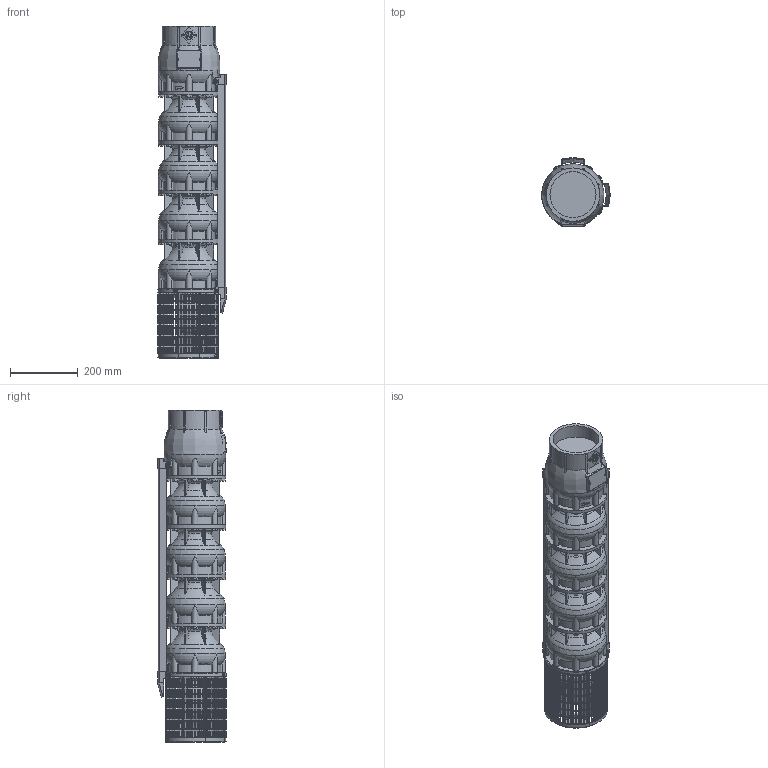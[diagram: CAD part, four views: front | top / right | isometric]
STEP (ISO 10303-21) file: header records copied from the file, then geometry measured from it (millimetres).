
FILE_DESCRIPTION(/* description */ ('Unknown'),/* implementation_level */ '2;1');
FILE_NAME(/* name */ 'VSI134-4_WR_M6-50_SLE',/* time_stamp */ '2023-09-14T15:05:43+02:00',/* author */ ('Unknown'),/* organization */ ('Unknown'),/* preprocessor_version */ 'ST-DEVELOPER v18.102',/* originating_system */ 'Solid Edge',/* authorisation */ 'Unknown');
FILE_SCHEMA (('PROCESS_PLANNING_SCHEMA','AUTOMOTIVE_DESIGN {1 0 10303 214 3 1 1}'));
Products named in the file (11): VSI134-4_WR_M6-50_SLE; VSI134_testata; VSI134_diffusore; VSI134_supporto_8×6; VSI134_filtro_A; VSI134_filtro_B; VSI134_terminale_top_copricavo_basso; VSI134_terminale_bottom_copricavo_basso; LOW 134-4; M5X8_UNI7687; VSI134_giunto_8×6
Assembly tree (28 placements, depth 2):
  VSI134-4_WR_M6-50_SLE
    VSI134_testata
    VSI134_diffusore  x4
    VSI134_supporto_8×6
    VSI134_filtro_A
    VSI134_filtro_B
    VSI134_terminale_top_copricavo_basso  x2
    VSI134_terminale_bottom_copricavo_basso  x2
    LOW 134-4  x2
    M5X8_UNI7687  x13
    VSI134_giunto_8×6
Bounding box: 201.57 x 202.09 x 977 mm (x, y, z)
Volume: 16360010.1 mm3; surface area: 1529562.6 mm2
Topology: 67 solids, 69 shells, 3310 faces, 9318 edges, 6208 vertices
Faces by surface type: plane 2514, cylinder 461, torus 229, cone 60, bspline 31, sphere 15
Full cylindrical faces by diameter (mm): 2.4 x2, 3 x2, 4.2 x16, 5 x13, 5.5 x8, 15 x4, 26 x1, 44 x1, 59 x1, 74 x1, 76.2 x1, 98 x1, 135.472 x1, 157 x1, 182 x5
Entity records: 83773 total; most frequent: CARTESIAN_POINT 18048, ORIENTED_EDGE 13738, DIRECTION 13178, EDGE_CURVE 6869, VERTEX_POINT 4627, AXIS2_PLACEMENT_3D 4496, LINE 4186, VECTOR 4186
